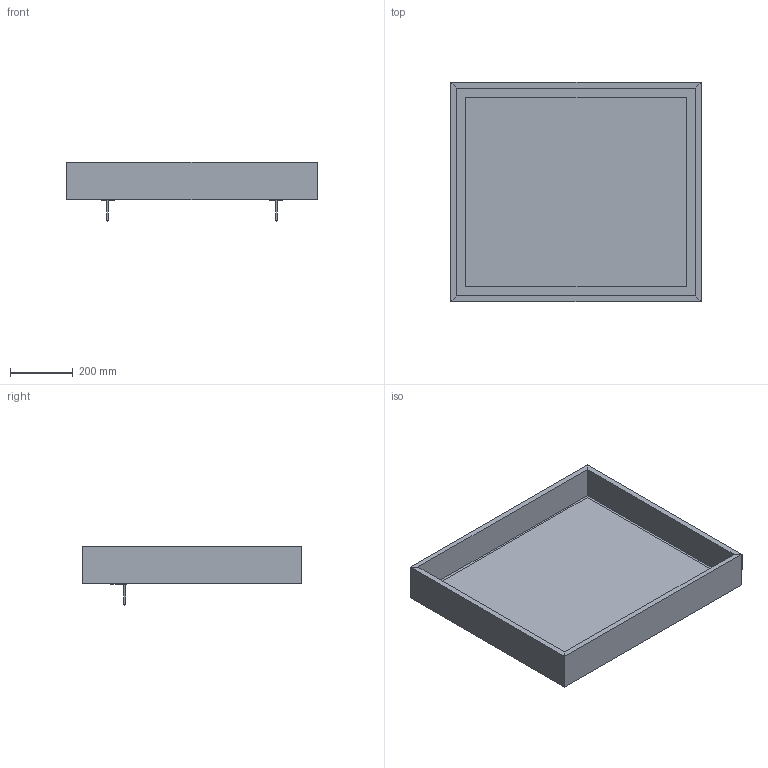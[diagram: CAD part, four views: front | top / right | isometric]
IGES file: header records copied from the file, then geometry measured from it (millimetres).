
Global section: file name: 3D Dosyası,; native system: Autodesk Inventor 2024; preprocessor: unknown; author: pc11; date: 20250709.164222; units: millimetre
Bounding box: 800 x 700 x 190 mm (x, y, z)
Volume: 14825037.9 mm3; surface area: 2650515.4 mm2
Topology: 18 solids, 18 shells, 478 faces, 1276 edges, 858 vertices
Faces by surface type: bspline 478
